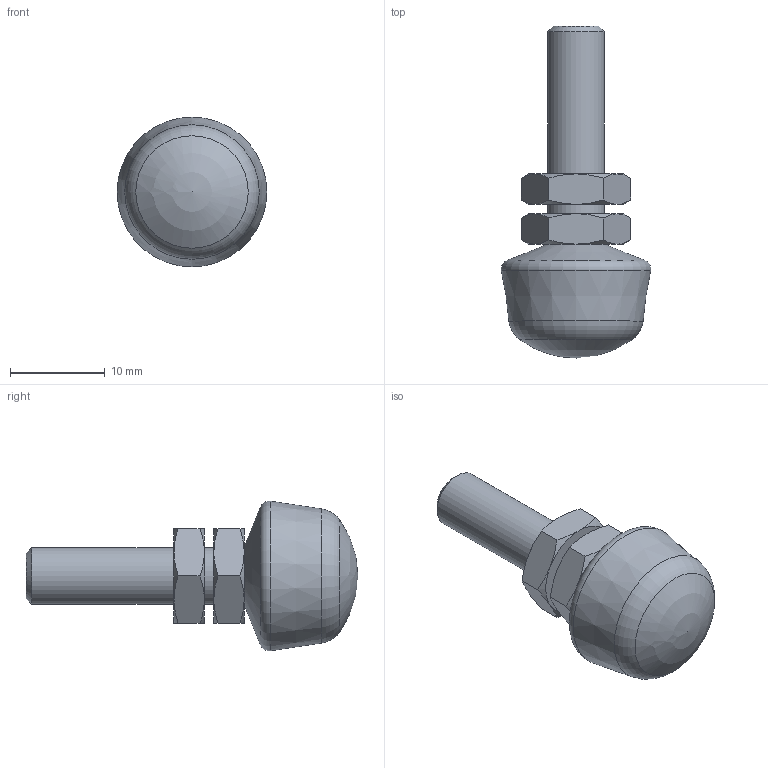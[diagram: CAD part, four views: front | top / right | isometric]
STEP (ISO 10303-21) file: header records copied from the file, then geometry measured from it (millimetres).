
FILE_DESCRIPTION( ( 'STEP AP203' ), '1' );
FILE_NAME( 'C:/Temp/Ganter_Step_05_03_2020/data/2_4/gn_708_1/gn_708_1_ni/Stainless Steel-Clamping bolt GN 708.1-M6-35-B-NI (0).stp', '2020-03-13T05:51:23', ( 'License CC BY-ND 4.0' ), ( 'CADENAS' ), ' ', 'PARTsolutions', ' ' );
FILE_SCHEMA( ( 'CONFIG_CONTROL_DESIGN' ) );
Length unit declared in the file: millimetre
Products named in the file (3): Stainless Steel-Clamping bolt GN 708.1-M6-35-B-NI (0); _Edelstahl-Andrueckschraube GN 708.1-M6-35-B-NI (0)-1; _Edelstahl-Andrueckschraube GN 708.1-M6-35-B-NI-2
Assembly tree (3 placements, depth 2):
  Stainless Steel-Clamping bolt GN 708.1-M6-35-B-NI (0)
    _Edelstahl-Andrueckschraube GN 708.1-M6-35-B-NI (0)-1
    _Edelstahl-Andrueckschraube GN 708.1-M6-35-B-NI-2  x2
Bounding box: 15.78 x 35 x 15.78 mm (x, y, z)
Volume: 2740.4 mm3; surface area: 1696.4 mm2
Topology: 3 solids, 3 shells, 54 faces, 114 edges, 65 vertices
Faces by surface type: cone 31, plane 17, cylinder 3, torus 2, sphere 1
Full cylindrical faces by diameter (mm): 4.917 x2, 6 x1
Entity records: 942 total; most frequent: CARTESIAN_POINT 245, DIRECTION 122, ORIENTED_EDGE 106, AXIS2_PLACEMENT_3D 58, EDGE_CURVE 53, EDGE_LOOP 42, VERTEX_POINT 37, FACE_OUTER_BOUND 35
